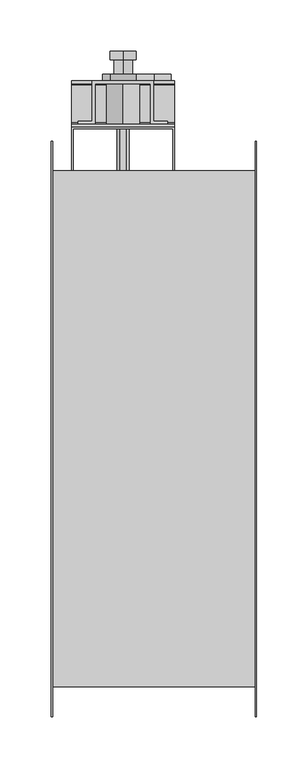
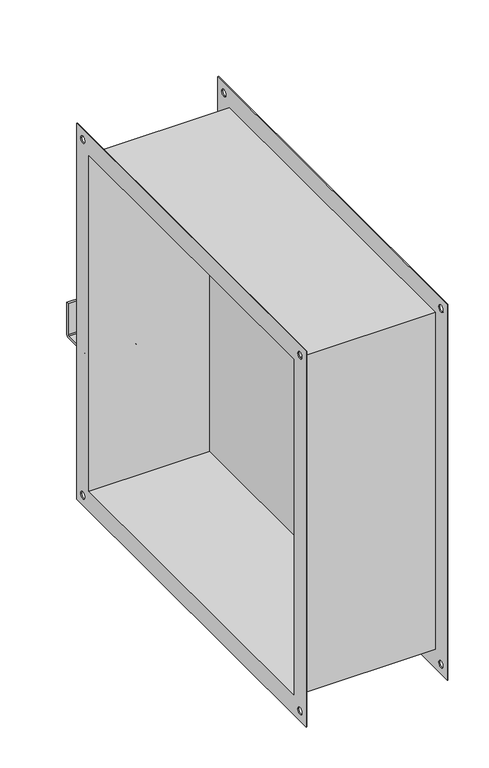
"""IFC4 building model written with IfcOpenShell, lengths in millimetres: damper geometry, СВ_КлапанПротивопожарный_КДМ-2М-3_НЗ_КанальныйПрямоугольный_СВОК : КДМ-3_Привод ЭМ."""

from ifc_helpers import new_model, si_unit, frame, origin, place, context, project, spatial, polyline, circle_curve, outline, extrude, source, transform, mapped, element, save
from ifc_brep_helpers import plane_surface, cylinder_surface, revolved_surface, advanced_brep


def damper_e07f9e79(model_context):
    return source(origin(), model_context, "Body", "SolidModel", [
        extrude(outline(polyline([(70.0, -250.0), (70.0, 250.0), (90.0, 250.0), (90.0, -250.0), (70.0, -250.0)])), frame((0.0, 0.0, -250.0), z_axis=(0.0, 0.0, 1.0), x_axis=(1.0, 0.0, 0.0)), (0.0, 0.0, 1.0), 500.0),
        extrude(outline(polyline([(-78.8298911, 251.2), (-80.0298911, 251.2), (-80.0298911, 293.2), (20.0, 293.2), (20.0, 251.2), (18.8, 251.2), (18.8, 292.0), (-78.8298911, 292.0), (-78.8298911, 251.2)])), frame((0.0, 0.0, -80.0), z_axis=(0.0, 0.0, 1.0), x_axis=(1.0, 0.0, 0.0)), (0.0, 0.0, 1.0), 162.5),
        advanced_brep(
        [(-30.0, 367.2, 65.8717586), (-30.0, 367.2, 53.0), (-30.0, 367.2, 40.1282414), (-30.0, 359.322975, 65.8717586), (-30.0, 359.322975, 40.1282414), (-30.0, 359.322975, 62.0972194), (-30.0, 359.322975, 43.9027806), (-30.0, 345.2, 62.0972194), (-30.0, 345.2, 43.9027806), (-30.0, 345.2, 53.0)],
        [
            (0, 1),
            (1, 2),
            (2, 0, circle_curve(frame((-30.0, 367.2, 53.0), z_axis=(0.0, 1.0, 0.0), x_axis=(0.0, 0.0, -1.0)), 12.8717586)),
            (0, 2, circle_curve(frame((-30.0, 367.2, 53.0), z_axis=(0.0, 1.0, 0.0), x_axis=(0.0, 0.0, -1.0)), 12.8717586)),
            (3, 0),
            (2, 4),
            (4, 3, circle_curve(frame((-30.0, 359.322975, 53.0), z_axis=(0.0, 1.0, 0.0), x_axis=(0.0, 0.0, -1.0)), 12.8717586)),
            (3, 4, circle_curve(frame((-30.0, 359.322975, 53.0), z_axis=(0.0, 1.0, 0.0), x_axis=(0.0, 0.0, -1.0)), 12.8717586)),
            (5, 3),
            (4, 6),
            (6, 5, circle_curve(frame((-30.0, 359.322975, 53.0), z_axis=(0.0, 1.0, 0.0), x_axis=(0.0, 0.0, -1.0)), 9.0972194)),
            (5, 6, circle_curve(frame((-30.0, 359.322975, 53.0), z_axis=(0.0, 1.0, 0.0), x_axis=(0.0, 0.0, -1.0)), 9.0972194)),
            (7, 5),
            (6, 8),
            (8, 7, circle_curve(frame((-30.0, 345.2, 53.0), z_axis=(0.0, 1.0, 0.0), x_axis=(0.0, 0.0, -1.0)), 9.0972194)),
            (7, 8, circle_curve(frame((-30.0, 345.2, 53.0), z_axis=(0.0, 1.0, 0.0), x_axis=(0.0, 0.0, -1.0)), 9.0972194)),
            (9, 7),
            (8, 9),
        ],
        [
            plane_surface(frame((-30.0, 367.2, 53.0), z_axis=(0.0, 1.0, 0.0), x_axis=(0.0, 0.0, -1.0))),
            cylinder_surface(frame((-30.0, 345.2, 53.0), z_axis=(0.0, -1.0, 0.0), x_axis=(0.0, 0.0, -1.0)), 12.8717586),
            plane_surface(frame((-30.0, 359.322975, 53.0), z_axis=(0.0, -1.0, 0.0), x_axis=(0.0, 0.0, -1.0))),
            cylinder_surface(frame((-30.0, 345.2, 53.0), z_axis=(0.0, -1.0, 0.0), x_axis=(0.0, 0.0, -1.0)), 9.0972194),
            plane_surface(frame((-30.0, 345.2, 53.0), z_axis=(0.0, -1.0, 0.0), x_axis=(0.0, 0.0, -1.0))),
        ],
        [
            (0, [[1, 2, 3]]),
            (0, [[-2, -1, 4]]),
            (1, [[5, -3, 6, 7]]),
            (1, [[-6, -4, -5, 8]]),
            (2, [[9, -7, 10, 11]]),
            (2, [[-10, -8, -9, 12]]),
            (3, [[13, -11, 14, 15]]),
            (3, [[-14, -12, -13, 16]]),
            (4, [[17, -15, 18]]),
            (4, [[-18, -16, -17]]),
        ],
    ),
        advanced_brep(
        [(-60.37371, 338.6632523, 70.900028), (-60.37371, 299.2, 70.900028), (-73.9362537, 299.2, 70.900028), (-73.9362537, 296.2, 70.900028), (-57.37371, 296.2, 70.900028), (-57.37371, 335.6632523, 70.900028), (-30.37371, 335.6632523, 70.900028), (-3.37371, 335.6632523, 70.900028), (-3.37371, 296.2, 70.900028), (13.1888336, 296.2, 70.900028), (13.1888336, 299.2, 70.900028), (-0.37371, 299.2, 70.900028), (-0.37371, 338.6632523, 70.900028), (-60.37371, 338.6632523, 35.2906263), (-42.4468236, 338.6632523, 35.2906263), (-30.37371, 338.6632523, 35.2906263), (-17.5531764, 338.6632523, 35.2906263), (-0.37371, 338.6632523, 35.2906263), (-0.37371, 299.2, 35.2906263), (13.1888336, 299.2, 35.2906263), (13.1888336, 296.2, 35.2906263), (-3.37371, 296.2, 35.2906263), (-3.37371, 335.6632523, 35.2906263), (-30.37371, 335.6632523, 35.2906263), (-57.37371, 335.6632523, 35.2906263), (-57.37371, 296.2, 35.2906263), (-73.9362537, 296.2, 35.2906263), (-73.9362537, 299.2, 35.2906263), (-60.37371, 299.2, 35.2906263), (-30.37371, 335.6632523, 68.9846504), (-30.0, 335.6632523, 68.9890183), (-30.0, 335.6632523, 37.0109817), (-30.37371, 335.6632523, 37.0153496), (-42.4468236, 345.2, 53.0), (-17.5531764, 345.2, 53.0), (-17.5531764, 345.2, 3.0), (-22.3466574, 345.2, 3.0), (-22.3466574, 345.2, -19.7841255), (0.2857987, 345.2, -42.6282215), (16.7904973, 345.2, -42.6282215), (16.7904973, 345.2, -50.5836838), (-21.6781206, 345.2, -68.1864324), (-42.4468236, 345.2, -34.345078), (-38.4852814, 345.2, -50.0), (-35.9954463, 345.2, -52.4898351), (-35.9954463, 345.2, -55.9954463), (-32.4898351, 345.2, -55.9954463), (-30.0, 345.2, -58.4852814), (-27.5101649, 345.2, -55.9954463), (-24.0045537, 345.2, -55.9954463), (-24.0045537, 345.2, -52.4898351), (-21.5147186, 345.2, -50.0), (-24.0045537, 345.2, -47.5101649), (-24.0045537, 345.2, -44.0045537), (-27.5101649, 345.2, -44.0045537), (-30.0, 345.2, -41.5147186), (-32.4898351, 345.2, -44.0045537), (-35.9954463, 345.2, -44.0045537), (-35.9954463, 345.2, -47.5101649), (-17.5531764, 338.6632523, 3.0), (-42.4468236, 338.6632523, -29.3568384), (-6.6455014, 338.6632523, -29.3568384), (-22.3466574, 338.6632523, -19.7841255), (-22.3466574, 338.6632523, 3.0), (-42.4468236, 338.6632523, 53.0), (-17.5531764, 338.6632523, 53.0), (-21.6781206, 338.6632523, -68.1864324), (-42.4468236, 338.6632523, -34.345078), (16.7904973, 338.6632523, -42.6282215), (16.7904973, 338.6632523, -50.5836838), (0.2857987, 338.6632523, -42.6282215), (-30.0, 335.6632523, -65.9890183), (-30.0, 335.6632523, -34.0109817), (-30.0, 296.2, -34.0109817), (-30.0, 296.2, -65.9890183), (-30.0, 296.2, 37.0109817), (-30.0, 296.2, 68.9890183), (20.0, 293.2, -75.5), (20.0, 297.7, -80.0), (20.0, 334.1337407, -80.0), (20.0, 338.6632523, -75.4704884), (20.0, 338.6632523, -29.3568384), (20.0, 335.6632523, -29.3568384), (20.0, 335.6632523, -75.4704884), (20.0, 334.1337407, -77.0), (20.0, 297.7, -77.0), (20.0, 296.2, -75.5), (20.0, 296.2, 82.5), (20.0, 293.2, 82.5), (-80.0, 293.2, -75.5), (-80.0, 293.2, 82.5), (-80.0, 296.2, 82.5), (-80.0, 296.2, -75.5), (-80.0, 297.7, -77.0), (-80.0, 334.1337407, -77.0), (-80.0, 335.6632523, -75.4704884), (-80.0, 335.6632523, -29.3568384), (-80.0, 338.6632523, -29.3568384), (-80.0, 338.6632523, -75.4704884), (-80.0, 334.1337407, -80.0), (-80.0, 297.7, -80.0), (-35.9954463, 293.2, -47.5101649), (-35.9954463, 293.2, -44.0045537), (-32.4898351, 293.2, -44.0045537), (-30.0, 293.2, -41.5147186), (-27.5101649, 293.2, -44.0045537), (-24.0045537, 293.2, -44.0045537), (-24.0045537, 293.2, -47.5101649), (-21.5147186, 293.2, -50.0), (-24.0045537, 293.2, -52.4898351), (-24.0045537, 293.2, -55.9954463), (-27.5101649, 293.2, -55.9954463), (-30.0, 293.2, -58.4852814), (-32.4898351, 293.2, -55.9954463), (-35.9954463, 293.2, -55.9954463), (-35.9954463, 293.2, -52.4898351), (-38.4852814, 293.2, -50.0)],
        [
            (0, 1),
            (1, 2),
            (2, 3),
            (3, 4),
            (4, 5),
            (5, 6),
            (6, 7),
            (7, 8),
            (8, 9),
            (9, 10),
            (10, 11),
            (11, 12),
            (12, 0),
            (13, 14),
            (14, 15),
            (15, 16),
            (16, 17),
            (17, 18),
            (18, 19),
            (19, 20),
            (20, 21),
            (21, 22),
            (22, 23),
            (23, 24),
            (24, 25),
            (25, 26),
            (26, 27),
            (27, 28),
            (28, 13),
            (11, 18),
            (17, 12),
            (10, 19),
            (9, 20),
            (7, 22),
            (21, 8),
            (6, 29),
            (29, 30, circle_curve(frame((-30.0, 335.6632523, 53.0), z_axis=(0.0, 1.0, 0.0), x_axis=(0.0, 0.0, 1.0)), 15.9890183)),
            (30, 31, circle_curve(frame((-30.0, 335.6632523, 53.0), z_axis=(0.0, 1.0, 0.0), x_axis=(0.0, 0.0, 1.0)), 15.9890183)),
            (31, 32, circle_curve(frame((-30.0, 335.6632523, 53.0), z_axis=(0.0, 1.0, 0.0), x_axis=(0.0, 0.0, 1.0)), 15.9890183)),
            (32, 23),
            (5, 24),
            (32, 29, circle_curve(frame((-30.0, 335.6632523, 53.0), z_axis=(0.0, 1.0, 0.0), x_axis=(0.0, 0.0, 1.0)), 15.9890183)),
            (4, 25),
            (2, 27),
            (26, 3),
            (1, 28),
            (0, 13),
            (33, 34, circle_curve(frame((-30.0, 345.2, 53.0), z_axis=(0.0, 1.0, 0.0), x_axis=(0.0, 0.0, 1.0)), 12.4468236)),
            (34, 35),
            (35, 36),
            (36, 37),
            (37, 38, circle_curve(frame((-30.0, 345.2, -50.0), z_axis=(0.0, 1.0, 0.0), x_axis=(0.0, 0.0, 1.0)), 31.1700613)),
            (38, 39),
            (39, 40),
            (40, 41),
            (41, 42, circle_curve(frame((-30.0, 345.2, -50.0), z_axis=(0.0, 1.0, 0.0), x_axis=(0.0, 0.0, 1.0)), 20.0)),
            (42, 33),
            (43, 44),
            (44, 45),
            (45, 46),
            (46, 47),
            (47, 48),
            (48, 49),
            (49, 50),
            (50, 51),
            (51, 52),
            (52, 53),
            (53, 54),
            (54, 55),
            (55, 56),
            (56, 57),
            (57, 58),
            (58, 43),
            (59, 16),
            (14, 60),
            (60, 61),
            (61, 62, circle_curve(frame((-30.0, 338.6632523, -50.0), z_axis=(0.0, -1.0, 0.0), x_axis=(0.0, 0.0, 1.0)), 31.1700613)),
            (62, 63),
            (63, 59),
            (33, 64),
            (64, 65, circle_curve(frame((-30.0, 338.6632523, 53.0), z_axis=(0.0, 1.0, 0.0), x_axis=(0.0, 0.0, 1.0)), 12.4468236)),
            (65, 34),
            (41, 66),
            (66, 67, circle_curve(frame((-30.0, 338.6632523, -50.0), z_axis=(0.0, 1.0, 0.0), x_axis=(0.0, 0.0, 1.0)), 20.0)),
            (67, 42),
            (67, 60),
            (14, 64),
            (39, 68),
            (68, 69),
            (69, 40),
            (38, 70),
            (70, 68),
            (37, 62),
            (61, 70, circle_curve(frame((-30.0, 338.6632523, -50.0), z_axis=(0.0, 1.0, 0.0), x_axis=(0.0, 0.0, 1.0)), 31.1700613)),
            (36, 63),
            (35, 59),
            (65, 16),
            (71, 72, circle_curve(frame((-30.0, 335.6632523, -50.0), z_axis=(0.0, -1.0, 0.0), x_axis=(0.0, 0.0, 1.0)), 15.9890183)),
            (72, 73),
            (73, 74, circle_curve(frame((-30.0, 296.2, -50.0), z_axis=(0.0, 1.0, 0.0), x_axis=(0.0, 0.0, 1.0)), 15.9890183)),
            (74, 71),
            (74, 73, circle_curve(frame((-30.0, 296.2, -50.0), z_axis=(0.0, 1.0, 0.0), x_axis=(0.0, 0.0, 1.0)), 15.9890183)),
            (72, 71, circle_curve(frame((-30.0, 335.6632523, -50.0), z_axis=(0.0, -1.0, 0.0), x_axis=(0.0, 0.0, 1.0)), 15.9890183)),
            (75, 31),
            (30, 76),
            (76, 75, circle_curve(frame((-30.0, 296.2, 53.0), z_axis=(0.0, 1.0, 0.0), x_axis=(0.0, 0.0, 1.0)), 15.9890183)),
            (75, 76, circle_curve(frame((-30.0, 296.2, 53.0), z_axis=(0.0, 1.0, 0.0), x_axis=(0.0, 0.0, 1.0)), 15.9890183)),
            (77, 78, circle_curve(frame((20.0, 297.7, -75.5), z_axis=(1.0, 0.0, 0.0), x_axis=(0.0, 0.0, 1.0)), 4.5)),
            (78, 79),
            (79, 80, circle_curve(frame((20.0, 334.1337407, -75.4704884), z_axis=(1.0, 0.0, 0.0), x_axis=(0.0, 0.0, 1.0)), 4.5295116)),
            (80, 81),
            (81, 82),
            (82, 83),
            (83, 84, circle_curve(frame((20.0, 334.1337407, -75.4704884), z_axis=(-1.0, 0.0, 0.0), x_axis=(0.0, 0.0, 1.0)), 1.5295116)),
            (84, 85),
            (85, 86, circle_curve(frame((20.0, 297.7, -75.5), z_axis=(-1.0, 0.0, 0.0), x_axis=(0.0, 0.0, 1.0)), 1.5)),
            (86, 87),
            (87, 88),
            (88, 77),
            (89, 90),
            (90, 91),
            (91, 92),
            (92, 93, circle_curve(frame((-80.0, 297.7, -75.5), z_axis=(1.0, 0.0, 0.0), x_axis=(0.0, 0.0, 1.0)), 1.5)),
            (93, 94),
            (94, 95, circle_curve(frame((-80.0, 334.1337407, -75.4704884), z_axis=(1.0, 0.0, 0.0), x_axis=(0.0, 0.0, 1.0)), 1.5295116)),
            (95, 96),
            (96, 97),
            (97, 98),
            (98, 99, circle_curve(frame((-80.0, 334.1337407, -75.4704884), z_axis=(-1.0, 0.0, 0.0), x_axis=(0.0, 0.0, 1.0)), 4.5295116)),
            (99, 100),
            (100, 89, circle_curve(frame((-80.0, 297.7, -75.5), z_axis=(-1.0, 0.0, 0.0), x_axis=(0.0, 0.0, 1.0)), 4.5)),
            (88, 90),
            (89, 77),
            (101, 102),
            (102, 103),
            (103, 104),
            (104, 105),
            (105, 106),
            (106, 107),
            (107, 108),
            (108, 109),
            (109, 110),
            (110, 111),
            (111, 112),
            (112, 113),
            (113, 114),
            (114, 115),
            (115, 116),
            (116, 101),
            (87, 91),
            (86, 92),
            (85, 93),
            (84, 94),
            (83, 95),
            (82, 96),
            (81, 61),
            (60, 97),
            (80, 98),
            (66, 69),
            (79, 99),
            (78, 100),
            (116, 43),
            (58, 101),
            (115, 44),
            (114, 45),
            (113, 46),
            (112, 47),
            (111, 48),
            (110, 49),
            (109, 50),
            (108, 51),
            (107, 52),
            (106, 53),
            (105, 54),
            (104, 55),
            (103, 56),
            (102, 57),
        ],
        [
            plane_surface(frame((-60.37371, 338.6632523, 70.900028), z_axis=(0.0, 0.0, 1.0), x_axis=(1.0, 0.0, 0.0))),
            plane_surface(frame((-60.37371, 338.6632523, 35.2906263), z_axis=(0.0, 0.0, -1.0), x_axis=(-1.0, 0.0, 0.0))),
            plane_surface(frame((-0.37371, 338.6632523, 70.900028), z_axis=(1.0, 0.0, 0.0), x_axis=(0.0, 0.0, -1.0))),
            plane_surface(frame((-0.37371, 299.2, 70.900028), z_axis=(0.0, 1.0, 0.0), x_axis=(0.0, 0.0, -1.0))),
            plane_surface(frame((13.1888336, 299.2, 70.900028), z_axis=(1.0, 0.0, 0.0), x_axis=(0.0, 0.0, -1.0))),
            plane_surface(frame((-3.37371, 296.2, 70.900028), z_axis=(-1.0, 0.0, 0.0), x_axis=(0.0, 0.0, -1.0))),
            plane_surface(frame((-3.37371, 335.6632523, 70.900028), z_axis=(0.0, -1.0, 0.0), x_axis=(0.0, 0.0, -1.0))),
            plane_surface(frame((-30.37371, 335.6632523, 70.900028), z_axis=(0.0, -1.0, 0.0), x_axis=(0.0, 0.0, -1.0))),
            plane_surface(frame((-57.37371, 335.6632523, 70.900028), z_axis=(1.0, 0.0, 0.0), x_axis=(0.0, 0.0, -1.0))),
            plane_surface(frame((-73.9362537, 296.2, 70.900028), z_axis=(-1.0, 0.0, 0.0), x_axis=(0.0, 0.0, -1.0))),
            plane_surface(frame((-73.9362537, 299.2, 70.900028), z_axis=(0.0, 1.0, 0.0), x_axis=(0.0, 0.0, -1.0))),
            plane_surface(frame((-60.37371, 299.2, 70.900028), z_axis=(-1.0, 0.0, 0.0), x_axis=(0.0, 0.0, -1.0))),
            plane_surface(frame((-42.4468236, 345.2, 53.0), z_axis=(0.0, 1.0, 0.0), x_axis=(0.0, 0.0, -1.0))),
            plane_surface(frame((-42.4468236, 338.6632523, 53.0), z_axis=(0.0, -1.0, 0.0), x_axis=(0.0, 0.0, 1.0))),
            cylinder_surface(frame((-30.0, 338.6632523, 53.0), z_axis=(0.0, 1.0, 0.0), x_axis=(0.0, 0.0, 1.0)), 12.4468236),
            cylinder_surface(frame((-30.0, 338.6632523, -50.0), z_axis=(0.0, 1.0, 0.0), x_axis=(0.0, 0.0, 1.0)), 20.0),
            plane_surface(frame((-42.4468236, 345.2, 53.0), z_axis=(-1.0, 0.0, 0.0), x_axis=(0.0, -1.0, 0.0))),
            plane_surface(frame((16.7904973, 345.2, -50.5836838), z_axis=(1.0, 0.0, 0.0), x_axis=(0.0, -1.0, 0.0))),
            plane_surface(frame((16.7904973, 345.2, -42.6282215), z_axis=(0.0, 0.0, 1.0), x_axis=(0.0, -1.0, 0.0))),
            cylinder_surface(frame((-30.0, 338.6632523, -50.0), z_axis=(0.0, 1.0, 0.0), x_axis=(0.0, 0.0, 1.0)), 31.1700613),
            plane_surface(frame((-22.3466574, 345.2, -19.7841255), z_axis=(1.0, 0.0, 0.0), x_axis=(0.0, -1.0, 0.0))),
            plane_surface(frame((-22.3466574, 345.2, 3.0), z_axis=(0.0, 0.0, -1.0), x_axis=(0.0, -1.0, 0.0))),
            plane_surface(frame((-17.5531764, 345.2, 3.0), z_axis=(1.0, 0.0, 0.0), x_axis=(0.0, -1.0, 0.0))),
            plane_surface(frame((-30.0, 338.6632523, -34.0109817), z_axis=(0.0, 1.0, 0.0), x_axis=(-1.0, 0.0, 0.0))),
            cylinder_surface(frame((-30.0, 296.2, -50.0), z_axis=(0.0, 1.0, 0.0), x_axis=(0.0, 0.0, 1.0)), 15.9890183),
            cylinder_surface(frame((-30.0, 251.2, 53.0), z_axis=(0.0, 1.0, 0.0), x_axis=(0.0, 0.0, 1.0)), 15.9890183),
            plane_surface(frame((20.0, 293.2, 82.5), z_axis=(1.0, 0.0, 0.0), x_axis=(0.0, 0.0, 1.0))),
            plane_surface(frame((-80.0, 293.2, 82.5), z_axis=(-1.0, 0.0, 0.0), x_axis=(0.0, 0.0, -1.0))),
            plane_surface(frame((20.0, 293.2, -75.5), z_axis=(0.0, -1.0, 0.0), x_axis=(-1.0, 0.0, 0.0))),
            plane_surface(frame((20.0, 293.2, 82.5), z_axis=(0.0, 0.0, 1.0), x_axis=(-1.0, 0.0, 0.0))),
            plane_surface(frame((20.0, 296.2, 82.5), z_axis=(0.0, 1.0, 0.0), x_axis=(-1.0, 0.0, 0.0))),
            revolved_surface(polyline([(-80.0, 297.7, -74.0), (20.0, 297.7, -74.0)]), (-80.0, 297.7, -75.5), (-1.0, 0.0, 0.0)),
            plane_surface(frame((20.0, 297.7, -77.0), z_axis=(0.0, 0.0, 1.0), x_axis=(-1.0, 0.0, 0.0))),
            revolved_surface(polyline([(-80.0, 334.1337407, -73.94097679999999), (20.0, 334.1337407, -73.94097679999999)]), (-80.0, 334.1337407, -75.4704884), (-1.0, 0.0, 0.0)),
            plane_surface(frame((20.0, 335.6632523, -75.4704884), z_axis=(0.0, -1.0, 0.0), x_axis=(-1.0, 0.0, 0.0))),
            plane_surface(frame((20.0, 335.6632523, -29.3568384), z_axis=(0.0, 0.0, 1.0), x_axis=(-1.0, 0.0, 0.0))),
            plane_surface(frame((20.0, 338.6632523, -29.3568384), z_axis=(0.0, 1.0, 0.0), x_axis=(-1.0, 0.0, 0.0))),
            cylinder_surface(frame((-80.0, 334.1337407, -75.4704884), z_axis=(1.0, 0.0, 0.0), x_axis=(0.0, 0.0, 1.0)), 4.5295116),
            plane_surface(frame((20.0, 334.1337407, -80.0), z_axis=(0.0, 0.0, -1.0), x_axis=(-1.0, 0.0, 0.0))),
            cylinder_surface(frame((-80.0, 297.7, -75.5), z_axis=(1.0, 0.0, 0.0), x_axis=(0.0, 0.0, 1.0)), 4.5),
            plane_surface(frame((-21.6781206, 345.2, -68.1864324), z_axis=(0.41609396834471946, 0.0, -0.909321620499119), x_axis=(0.0, -1.0, 0.0))),
            plane_surface(frame((-35.9954463, 351.2, -47.5101649), z_axis=(0.7071067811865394, 0.0, -0.7071067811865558), x_axis=(0.0, -1.0, 0.0))),
            plane_surface(frame((-38.4852814, 351.2, -50.0), z_axis=(0.7071067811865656, 0.0, 0.7071067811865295), x_axis=(0.0, -1.0, 0.0))),
            plane_surface(frame((-35.9954463, 351.2, -52.4898351), z_axis=(1.0, 0.0, 0.0), x_axis=(0.0, -1.0, 0.0))),
            plane_surface(frame((-35.9954463, 351.2, -55.9954463), z_axis=(0.0, 0.0, 1.0), x_axis=(0.0, -1.0, 0.0))),
            plane_surface(frame((-32.4898351, 351.2, -55.9954463), z_axis=(0.707106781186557, 0.0, 0.707106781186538), x_axis=(0.0, -1.0, 0.0))),
            plane_surface(frame((-30.0, 351.2, -58.4852814), z_axis=(-0.7071067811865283, 0.0, 0.7071067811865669), x_axis=(0.0, -1.0, 0.0))),
            plane_surface(frame((-27.5101649, 351.2, -55.9954463), z_axis=(0.0, 0.0, 1.0), x_axis=(0.0, -1.0, 0.0))),
            plane_surface(frame((-24.0045537, 351.2, -55.9954463), z_axis=(-1.0, 0.0, 0.0), x_axis=(0.0, -1.0, 0.0))),
            plane_surface(frame((-24.0045537, 351.2, -52.4898351), z_axis=(-0.7071067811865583, 0.0, 0.7071067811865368), x_axis=(0.0, -1.0, 0.0))),
            plane_surface(frame((-21.5147186, 351.2, -50.0), z_axis=(-0.7071067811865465, 0.0, -0.7071067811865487), x_axis=(0.0, -1.0, 0.0))),
            plane_surface(frame((-24.0045537, 351.2, -47.5101649), z_axis=(-1.0, 0.0, 0.0), x_axis=(0.0, -1.0, 0.0))),
            plane_surface(frame((-24.0045537, 351.2, -44.0045537), z_axis=(0.0, 0.0, -1.0), x_axis=(0.0, -1.0, 0.0))),
            plane_surface(frame((-27.5101649, 351.2, -44.0045537), z_axis=(-0.7071067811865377, 0.0, -0.7071067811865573), x_axis=(0.0, -1.0, 0.0))),
            plane_surface(frame((-30.0, 351.2, -41.5147186), z_axis=(0.7071067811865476, 0.0, -0.7071067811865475), x_axis=(0.0, -1.0, 0.0))),
            plane_surface(frame((-32.4898351, 351.2, -44.0045537), z_axis=(0.0, 0.0, -1.0), x_axis=(0.0, -1.0, 0.0))),
            plane_surface(frame((-35.9954463, 351.2, -44.0045537), z_axis=(1.0, 0.0, 0.0), x_axis=(0.0, -1.0, 0.0))),
        ],
        [
            (0, [[1, 2, 3, 4, 5, 6, 7, 8, 9, 10, 11, 12, 13]]),
            (1, [[14, 15, 16, 17, 18, 19, 20, 21, 22, 23, 24, 25, 26, 27, 28, 29]]),
            (2, [[30, -18, 31, -12]]),
            (3, [[32, -19, -30, -11]]),
            (4, [[33, -20, -32, -10]]),
            (5, [[34, -22, 35, -8]]),
            (6, [[36, 37, 38, 39, 40, -23, -34, -7]]),
            (7, [[41, -24, -40, 42, -36, -6]]),
            (8, [[43, -25, -41, -5]]),
            (9, [[44, -27, 45, -3]]),
            (10, [[46, -28, -44, -2]]),
            (11, [[47, -29, -46, -1]]),
            (12, [[48, 49, 50, 51, 52, 53, 54, 55, 56, 57], [58, 59, 60, 61, 62, 63, 64, 65, 66, 67, 68, 69, 70, 71, 72, 73]]),
            (13, [[74, -16, -15, 75, 76, 77, 78, 79]]),
            (14, [[80, 81, 82, -48]]),
            (15, [[83, 84, 85, -56]]),
            (16, [[-85, 86, -75, 87, -80, -57]]),
            (17, [[88, 89, 90, -54]]),
            (18, [[91, 92, -88, -53]]),
            (19, [[93, -77, 94, -91, -52]]),
            (20, [[95, -78, -93, -51]]),
            (21, [[96, -79, -95, -50]]),
            (22, [[-82, 97, -74, -96, -49]]),
            (23, [[-97, -81, -87, -14, -47, -13, -31, -17]]),
            (24, [[98, 99, 100, 101]]),
            (24, [[102, -99, 103, -101]]),
            (25, [[104, -38, 105, 106]]),
            (25, [[-105, -37, -42, -39, -104, 107]]),
            (26, [[108, 109, 110, 111, 112, 113, 114, 115, 116, 117, 118, 119]]),
            (27, [[120, 121, 122, 123, 124, 125, 126, 127, 128, 129, 130, 131]]),
            (28, [[132, -120, 133, -119], [134, 135, 136, 137, 138, 139, 140, 141, 142, 143, 144, 145, 146, 147, 148, 149]]),
            (29, [[150, -121, -132, -118]]),
            (30, [[151, -122, -150, -117], [-102, -100], [-107, -106], [-35, -21, -33, -9], [-45, -26, -43, -4]]),
            (31, [[152, -123, -151, -116]]),
            (32, [[153, -124, -152, -115]]),
            (33, [[154, -125, -153, -114]]),
            (34, [[155, -126, -154, -113], [-103, -98]]),
            (35, [[156, -76, 157, -127, -155, -112]]),
            (36, [[158, -128, -157, -86, -84, 159, -89, -92, -94, -156, -111]]),
            (37, [[160, -129, -158, -110]]),
            (38, [[161, -130, -160, -109]]),
            (39, [[-133, -131, -161, -108]]),
            (40, [[-90, -159, -83, -55]]),
            (41, [[-149, 162, -73, 163]]),
            (42, [[-148, 164, -58, -162]]),
            (43, [[-147, 165, -59, -164]]),
            (44, [[-146, 166, -60, -165]]),
            (45, [[-145, 167, -61, -166]]),
            (46, [[-144, 168, -62, -167]]),
            (47, [[-143, 169, -63, -168]]),
            (48, [[-142, 170, -64, -169]]),
            (49, [[-141, 171, -65, -170]]),
            (50, [[-140, 172, -66, -171]]),
            (51, [[-139, 173, -67, -172]]),
            (52, [[-138, 174, -68, -173]]),
            (53, [[-137, 175, -69, -174]]),
            (54, [[-136, 176, -70, -175]]),
            (55, [[-135, 177, -71, -176]]),
            (56, [[-72, -177, -134, -163]]),
        ],
    ),
        extrude(outline(polyline([(-44.8167305, -27.0074379), (-44.8167305, -32.9925621), (-50.0, -35.9851241), (-55.1832695, -32.9925621), (-55.1832695, -27.0074379), (-50.0, -24.0148759), (-44.8167305, -27.0074379)])), frame((0.0, 251.2, 0.0), z_axis=(0.0, 1.0, 0.0), x_axis=(0.0, 0.0, 1.0)), (0.0, 0.0, 1.0), 100.0),
        advanced_brep(
        [(98.8, -280.0, 280.0), (98.8, 280.0, 280.0), (98.8, 280.0, -280.0), (98.8, -280.0, -280.0), (98.8, 251.2, 251.2), (98.8, -251.2, 251.2), (98.8, -251.2, -251.2), (98.8, 251.2, -251.2), (98.8, 260.0, 265.0), (98.8, 270.0, 265.0), (98.8, -270.0, 265.0), (98.8, -260.0, 265.0), (98.8, -270.0, -265.0), (98.8, -260.0, -265.0), (98.8, 260.0, -265.0), (98.8, 270.0, -265.0), (100.0, -280.0, 280.0), (100.0, -280.0, -280.0), (100.0, 280.0, -280.0), (100.0, 280.0, 280.0), (100.0, -250.0, 250.0), (100.0, 250.0, 250.0), (100.0, 250.0, -250.0), (100.0, -250.0, -250.0), (100.0, 270.0, 265.0), (100.0, 260.0, 265.0), (100.0, -260.0, 265.0), (100.0, -270.0, 265.0), (100.0, -260.0, -265.0), (100.0, -270.0, -265.0), (100.0, 270.0, -265.0), (100.0, 260.0, -265.0), (-100.0, -280.0, 280.0), (-100.0, 280.0, 280.0), (-100.0, 280.0, -280.0), (-100.0, -280.0, -280.0), (-100.0, -250.0, 250.0), (-100.0, -250.0, -250.0), (-100.0, 250.0, -250.0), (-100.0, 250.0, 250.0), (-100.0, 260.0, 265.0), (-100.0, 270.0, 265.0), (-100.0, -270.0, 265.0), (-100.0, -260.0, 265.0), (-100.0, -270.0, -265.0), (-100.0, -260.0, -265.0), (-100.0, 260.0, -265.0), (-100.0, 270.0, -265.0), (-98.8, -280.0, 280.0), (-98.8, -280.0, -280.0), (-98.8, 280.0, -280.0), (-98.8, 280.0, 280.0), (-98.8, -251.2, 251.2), (-98.8, 251.2, 251.2), (-98.8, 251.2, -251.2), (-98.8, -251.2, -251.2), (-98.8, 270.0, 265.0), (-98.8, 260.0, 265.0), (-98.8, -260.0, 265.0), (-98.8, -270.0, 265.0), (-98.8, -260.0, -265.0), (-98.8, -270.0, -265.0), (-98.8, 270.0, -265.0), (-98.8, 260.0, -265.0)],
        [
            (0, 1),
            (1, 2),
            (2, 3),
            (3, 0),
            (4, 5),
            (5, 6),
            (6, 7),
            (7, 4),
            (8, 9, circle_curve(frame((98.8, 265.0, 265.0), z_axis=(1.0, 0.0, 0.0), x_axis=(0.0, 1.0, 0.0)), 5.0)),
            (9, 8, circle_curve(frame((98.8, 265.0, 265.0), z_axis=(1.0, 0.0, 0.0), x_axis=(0.0, 1.0, 0.0)), 5.0)),
            (10, 11, circle_curve(frame((98.8, -265.0, 265.0), z_axis=(1.0, 0.0, 0.0), x_axis=(0.0, 1.0, 0.0)), 5.0)),
            (11, 10, circle_curve(frame((98.8, -265.0, 265.0), z_axis=(1.0, 0.0, 0.0), x_axis=(0.0, 1.0, 0.0)), 5.0)),
            (12, 13, circle_curve(frame((98.8, -265.0, -265.0), z_axis=(1.0, 0.0, 0.0), x_axis=(0.0, 1.0, 0.0)), 5.0)),
            (13, 12, circle_curve(frame((98.8, -265.0, -265.0), z_axis=(1.0, 0.0, 0.0), x_axis=(0.0, 1.0, 0.0)), 5.0)),
            (14, 15, circle_curve(frame((98.8, 265.0, -265.0), z_axis=(1.0, 0.0, 0.0), x_axis=(0.0, 1.0, 0.0)), 5.0)),
            (15, 14, circle_curve(frame((98.8, 265.0, -265.0), z_axis=(1.0, 0.0, 0.0), x_axis=(0.0, 1.0, 0.0)), 5.0)),
            (16, 17),
            (17, 18),
            (18, 19),
            (19, 16),
            (20, 21),
            (21, 22),
            (22, 23),
            (23, 20),
            (24, 25, circle_curve(frame((100.0, 265.0, 265.0), z_axis=(-1.0, 0.0, 0.0), x_axis=(0.0, 1.0, 0.0)), 5.0)),
            (25, 24, circle_curve(frame((100.0, 265.0, 265.0), z_axis=(-1.0, 0.0, 0.0), x_axis=(0.0, 1.0, 0.0)), 5.0)),
            (26, 27, circle_curve(frame((100.0, -265.0, 265.0), z_axis=(-1.0, 0.0, 0.0), x_axis=(0.0, 1.0, 0.0)), 5.0)),
            (27, 26, circle_curve(frame((100.0, -265.0, 265.0), z_axis=(-1.0, 0.0, 0.0), x_axis=(0.0, 1.0, 0.0)), 5.0)),
            (28, 29, circle_curve(frame((100.0, -265.0, -265.0), z_axis=(-1.0, 0.0, 0.0), x_axis=(0.0, 1.0, 0.0)), 5.0)),
            (29, 28, circle_curve(frame((100.0, -265.0, -265.0), z_axis=(-1.0, 0.0, 0.0), x_axis=(0.0, 1.0, 0.0)), 5.0)),
            (30, 31, circle_curve(frame((100.0, 265.0, -265.0), z_axis=(-1.0, 0.0, 0.0), x_axis=(0.0, 1.0, 0.0)), 5.0)),
            (31, 30, circle_curve(frame((100.0, 265.0, -265.0), z_axis=(-1.0, 0.0, 0.0), x_axis=(0.0, 1.0, 0.0)), 5.0)),
            (32, 33),
            (33, 34),
            (34, 35),
            (35, 32),
            (36, 37),
            (37, 38),
            (38, 39),
            (39, 36),
            (40, 41, circle_curve(frame((-100.0, 265.0, 265.0), z_axis=(1.0, 0.0, 0.0), x_axis=(0.0, 1.0, 0.0)), 5.0)),
            (41, 40, circle_curve(frame((-100.0, 265.0, 265.0), z_axis=(1.0, 0.0, 0.0), x_axis=(0.0, 1.0, 0.0)), 5.0)),
            (42, 43, circle_curve(frame((-100.0, -265.0, 265.0), z_axis=(1.0, 0.0, 0.0), x_axis=(0.0, 1.0, 0.0)), 5.0)),
            (43, 42, circle_curve(frame((-100.0, -265.0, 265.0), z_axis=(1.0, 0.0, 0.0), x_axis=(0.0, 1.0, 0.0)), 5.0)),
            (44, 45, circle_curve(frame((-100.0, -265.0, -265.0), z_axis=(1.0, 0.0, 0.0), x_axis=(0.0, 1.0, 0.0)), 5.0)),
            (45, 44, circle_curve(frame((-100.0, -265.0, -265.0), z_axis=(1.0, 0.0, 0.0), x_axis=(0.0, 1.0, 0.0)), 5.0)),
            (46, 47, circle_curve(frame((-100.0, 265.0, -265.0), z_axis=(1.0, 0.0, 0.0), x_axis=(0.0, 1.0, 0.0)), 5.0)),
            (47, 46, circle_curve(frame((-100.0, 265.0, -265.0), z_axis=(1.0, 0.0, 0.0), x_axis=(0.0, 1.0, 0.0)), 5.0)),
            (48, 49),
            (49, 50),
            (50, 51),
            (51, 48),
            (52, 53),
            (53, 54),
            (54, 55),
            (55, 52),
            (56, 57, circle_curve(frame((-98.8, 265.0, 265.0), z_axis=(-1.0, 0.0, 0.0), x_axis=(0.0, 1.0, 0.0)), 5.0)),
            (57, 56, circle_curve(frame((-98.8, 265.0, 265.0), z_axis=(-1.0, 0.0, 0.0), x_axis=(0.0, 1.0, 0.0)), 5.0)),
            (58, 59, circle_curve(frame((-98.8, -265.0, 265.0), z_axis=(-1.0, 0.0, 0.0), x_axis=(0.0, 1.0, 0.0)), 5.0)),
            (59, 58, circle_curve(frame((-98.8, -265.0, 265.0), z_axis=(-1.0, 0.0, 0.0), x_axis=(0.0, 1.0, 0.0)), 5.0)),
            (60, 61, circle_curve(frame((-98.8, -265.0, -265.0), z_axis=(-1.0, 0.0, 0.0), x_axis=(0.0, 1.0, 0.0)), 5.0)),
            (61, 60, circle_curve(frame((-98.8, -265.0, -265.0), z_axis=(-1.0, 0.0, 0.0), x_axis=(0.0, 1.0, 0.0)), 5.0)),
            (62, 63, circle_curve(frame((-98.8, 265.0, -265.0), z_axis=(-1.0, 0.0, 0.0), x_axis=(0.0, 1.0, 0.0)), 5.0)),
            (63, 62, circle_curve(frame((-98.8, 265.0, -265.0), z_axis=(-1.0, 0.0, 0.0), x_axis=(0.0, 1.0, 0.0)), 5.0)),
            (4, 53),
            (52, 5),
            (55, 6),
            (54, 7),
            (35, 49),
            (48, 32),
            (34, 50),
            (33, 51),
            (20, 36),
            (39, 21),
            (38, 22),
            (37, 23),
            (3, 17),
            (16, 0),
            (2, 18),
            (1, 19),
            (8, 25),
            (24, 9),
            (40, 57),
            (56, 41),
            (10, 27),
            (26, 11),
            (42, 59),
            (58, 43),
            (12, 29),
            (28, 13),
            (44, 61),
            (60, 45),
            (14, 31),
            (30, 15),
            (46, 63),
            (62, 47),
        ],
        [
            plane_surface(frame((98.8, 250.0, 250.0), z_axis=(-1.0, 0.0, 0.0), x_axis=(0.0, -1.0, 0.0))),
            plane_surface(frame((100.0, 250.0, 250.0), z_axis=(1.0, 0.0, 0.0), x_axis=(0.0, 1.0, 0.0))),
            plane_surface(frame((-100.0, 250.0, 250.0), z_axis=(-1.0, 0.0, 0.0), x_axis=(0.0, -1.0, 0.0))),
            plane_surface(frame((-98.8, 250.0, 250.0), z_axis=(1.0, 0.0, 0.0), x_axis=(0.0, 1.0, 0.0))),
            plane_surface(frame((100.0, 251.2, 251.2), z_axis=(0.0, 0.0, 1.0), x_axis=(-1.0, 0.0, 0.0))),
            plane_surface(frame((100.0, -251.2, 251.2), z_axis=(0.0, -1.0, 0.0), x_axis=(-1.0, 0.0, 0.0))),
            plane_surface(frame((100.0, -251.2, -251.2), z_axis=(0.0, 0.0, -1.0), x_axis=(-1.0, 0.0, 0.0))),
            plane_surface(frame((100.0, 251.2, -251.2), z_axis=(0.0, 1.0, 0.0), x_axis=(-1.0, 0.0, 0.0))),
            plane_surface(frame((-98.8, -280.0, 280.0), z_axis=(0.0, -1.0, 0.0), x_axis=(-1.0, 0.0, 0.0))),
            plane_surface(frame((-98.8, -280.0, -280.0), z_axis=(0.0, 0.0, -1.0), x_axis=(-1.0, 0.0, 0.0))),
            plane_surface(frame((-98.8, 280.0, -280.0), z_axis=(0.0, 1.0, 0.0), x_axis=(-1.0, 0.0, 0.0))),
            plane_surface(frame((-98.8, 280.0, 280.0), z_axis=(0.0, 0.0, 1.0), x_axis=(-1.0, 0.0, 0.0))),
            plane_surface(frame((100.0, -250.0, 250.0), z_axis=(0.0, 0.0, -1.0), x_axis=(-1.0, 0.0, 0.0))),
            plane_surface(frame((100.0, 250.0, 250.0), z_axis=(0.0, -1.0, 0.0), x_axis=(-1.0, 0.0, 0.0))),
            plane_surface(frame((100.0, 250.0, -250.0), z_axis=(0.0, 0.0, 1.0), x_axis=(-1.0, 0.0, 0.0))),
            plane_surface(frame((100.0, -250.0, -250.0), z_axis=(0.0, 1.0, 0.0), x_axis=(-1.0, 0.0, 0.0))),
            plane_surface(frame((100.0, -280.0, 280.0), z_axis=(0.0, -1.0, 0.0), x_axis=(-1.0, 0.0, 0.0))),
            plane_surface(frame((100.0, -280.0, -280.0), z_axis=(0.0, 0.0, -1.0), x_axis=(-1.0, 0.0, 0.0))),
            plane_surface(frame((100.0, 280.0, -280.0), z_axis=(0.0, 1.0, 0.0), x_axis=(-1.0, 0.0, 0.0))),
            plane_surface(frame((100.0, 280.0, 280.0), z_axis=(0.0, 0.0, 1.0), x_axis=(-1.0, 0.0, 0.0))),
            revolved_surface(polyline([(100.0, 270.0, 265.0), (98.80000000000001, 270.0, 265.0)]), (-100.0, 265.0, 265.0), (1.0, 0.0, 0.0)),
            revolved_surface(polyline([(-98.8, 270.0, 265.0), (-100.0, 270.0, 265.0)]), (-100.0, 265.0, 265.0), (1.0, 0.0, 0.0)),
            revolved_surface(polyline([(100.0, -260.0, 265.0), (98.8, -260.0, 265.0)]), (-10.0, -265.0, 265.0), (1.0, 0.0, 0.0)),
            revolved_surface(polyline([(-98.8, -260.0, 265.0), (-100.0, -260.0, 265.0)]), (-10.0, -265.0, 265.0), (1.0, 0.0, 0.0)),
            revolved_surface(polyline([(100.0, -260.0, -265.0), (98.8, -260.0, -265.0)]), (-10.0, -265.0, -265.0), (1.0, 0.0, 0.0)),
            revolved_surface(polyline([(-98.8, -260.0, -265.0), (-100.0, -260.0, -265.0)]), (-10.0, -265.0, -265.0), (1.0, 0.0, 0.0)),
            revolved_surface(polyline([(100.0, 270.0, -265.0), (98.8, 270.0, -265.0)]), (-10.0, 265.0, -265.0), (1.0, 0.0, 0.0)),
            revolved_surface(polyline([(-98.8, 270.0, -265.0), (-100.0, 270.0, -265.0)]), (-10.0, 265.0, -265.0), (1.0, 0.0, 0.0)),
        ],
        [
            (0, [[1, 2, 3, 4], [5, 6, 7, 8], [9, 10], [11, 12], [13, 14], [15, 16]]),
            (1, [[17, 18, 19, 20], [21, 22, 23, 24], [25, 26], [27, 28], [29, 30], [31, 32]]),
            (2, [[33, 34, 35, 36], [37, 38, 39, 40], [41, 42], [43, 44], [45, 46], [47, 48]]),
            (3, [[49, 50, 51, 52], [53, 54, 55, 56], [57, 58], [59, 60], [61, 62], [63, 64]]),
            (4, [[65, -53, 66, -5]]),
            (5, [[-66, -56, 67, -6]]),
            (6, [[-67, -55, 68, -7]]),
            (7, [[-65, -8, -68, -54]]),
            (8, [[-36, 69, -49, 70]]),
            (9, [[-35, 71, -50, -69]]),
            (10, [[-34, 72, -51, -71]]),
            (11, [[-33, -70, -52, -72]]),
            (12, [[-21, 73, -40, 74]]),
            (13, [[-22, -74, -39, 75]]),
            (14, [[-23, -75, -38, 76]]),
            (15, [[-73, -24, -76, -37]]),
            (16, [[-4, 77, -17, 78]]),
            (17, [[-3, 79, -18, -77]]),
            (18, [[-2, 80, -19, -79]]),
            (19, [[-1, -78, -20, -80]]),
            (20, [[81, -25, 82, -9]]),
            (21, [[83, -57, 84, -41]]),
            (20, [[-81, -10, -82, -26]]),
            (21, [[-83, -42, -84, -58]]),
            (22, [[85, -27, 86, -11]]),
            (23, [[87, -59, 88, -43]]),
            (22, [[-85, -12, -86, -28]]),
            (23, [[-87, -44, -88, -60]]),
            (24, [[89, -29, 90, -13]]),
            (25, [[91, -61, 92, -45]]),
            (24, [[-89, -14, -90, -30]]),
            (25, [[-91, -46, -92, -62]]),
            (26, [[93, -31, 94, -15]]),
            (27, [[95, -63, 96, -47]]),
            (26, [[-93, -16, -94, -32]]),
            (27, [[-95, -48, -96, -64]]),
        ],
    ),
    ])


if __name__ == "__main__":
    model = new_model("IFC4")
    model_context = context("Model", 3, world=origin())
    ifc_project = project(units=[si_unit("LENGTHUNIT", "METRE", prefix="MILLI")], contexts=[model_context])
    site = spatial("IfcSite", under=ifc_project)
    building = spatial("IfcBuilding", under=site)
    placement = place(None, origin())
    damper_shape = damper_e07f9e79(model_context)
    element("IfcDamper", 1, ObjectType="СВ_КлапанПротивопожарный_КДМ-2М-3_НЗ_КанальныйПрямоугольный_СВОК : КДМ-3_Привод ЭМ", at=placement, inside=building, context=model_context, shape_type="MappedRepresentation", body=[
        mapped(damper_shape, transform((0.0, 0.0, 0.0), x_axis=(1.0, 0.0, 0.0), y_axis=(0.0, 1.0, 0.0), z_axis=(0.0, 0.0, 1.0))),
    ])
    save(model, "model.ifc")
